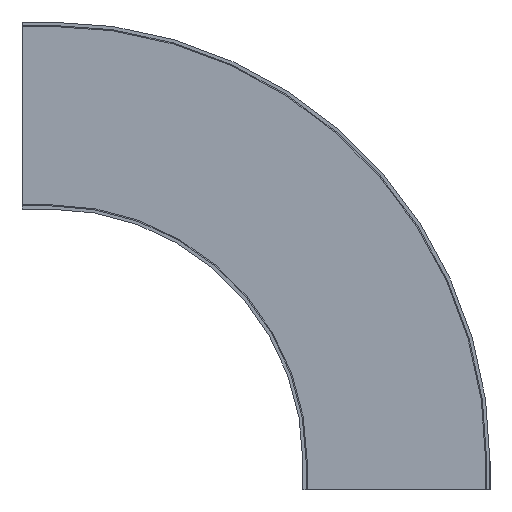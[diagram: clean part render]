
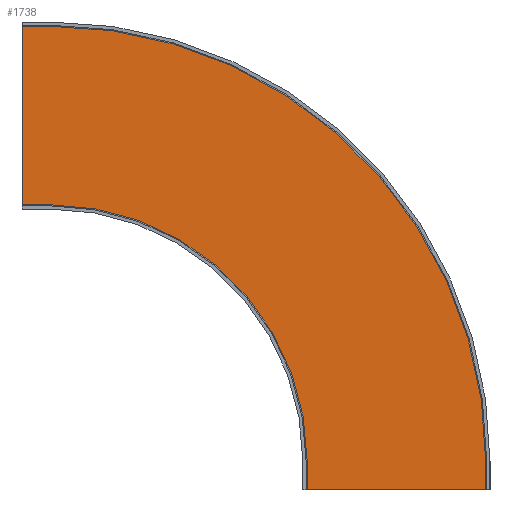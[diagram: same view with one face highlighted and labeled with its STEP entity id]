
A CAD part, front view. The second image highlights one B-rep face of the part: STEP entity #1738.
In plain terms, the highlighted planar face has unit normal (0, -1, 0).
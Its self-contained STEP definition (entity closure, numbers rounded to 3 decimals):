
#21 = DIRECTION ( 'NONE',  ( -1., 0., 0. ) ) ;
#25 = LINE ( 'NONE', #2360, #2268 ) ;
#75 = CARTESIAN_POINT ( 'NONE',  ( 474.9, -68.25, -52.5 ) ) ;
#120 = AXIS2_PLACEMENT_3D ( 'NONE', #1045, #1857, #1052 ) ;
#137 = EDGE_CURVE ( 'NONE', #424, #2401, #1360, .T. ) ;
#191 = CARTESIAN_POINT ( 'NONE',  ( -52.5, -68.25, 474.9 ) ) ;
#202 = FACE_OUTER_BOUND ( 'NONE', #1698, .T. ) ;
#267 = LINE ( 'NONE', #1863, #468 ) ;
#275 = LINE ( 'NONE', #781, #1667 ) ;
#286 = VERTEX_POINT ( 'NONE', #2055 ) ;
#310 = ORIENTED_EDGE ( 'NONE', *, *, #137, .T. ) ;
#385 = CARTESIAN_POINT ( 'NONE',  ( 474.9, -68.25, 0. ) ) ;
#424 = VERTEX_POINT ( 'NONE', #1928 ) ;
#432 = CARTESIAN_POINT ( 'NONE',  ( 805.1, -68.25, 0. ) ) ;
#433 = EDGE_CURVE ( 'NONE', #1125, #2167, #275, .T. ) ;
#453 = ORIENTED_EDGE ( 'NONE', *, *, #1427, .F. ) ;
#468 = VECTOR ( 'NONE', #1495, 1000. ) ;
#553 = DIRECTION ( 'NONE',  ( 1., 0., 0. ) ) ;
#657 = DIRECTION ( 'NONE',  ( 0., 1., 0. ) ) ;
#744 = VECTOR ( 'NONE', #1576, 1000. ) ;
#765 = AXIS2_PLACEMENT_3D ( 'NONE', #2127, #1381, #21 ) ;
#771 = LINE ( 'NONE', #191, #2415 ) ;
#781 = CARTESIAN_POINT ( 'NONE',  ( -52.5, -68.25, 805.1 ) ) ;
#797 = CARTESIAN_POINT ( 'NONE',  ( -52.5, -68.25, 805.1 ) ) ;
#826 = DIRECTION ( 'NONE',  ( 0., 0., 1. ) ) ;
#838 = CARTESIAN_POINT ( 'NONE',  ( 0., -68.25, 474.9 ) ) ;
#897 = ORIENTED_EDGE ( 'NONE', *, *, #2225, .T. ) ;
#940 = DIRECTION ( 'NONE',  ( 1., 0., 0. ) ) ;
#944 = ORIENTED_EDGE ( 'NONE', *, *, #2316, .F. ) ;
#990 = VERTEX_POINT ( 'NONE', #385 ) ;
#992 = CARTESIAN_POINT ( 'NONE',  ( 474.9, -68.25, -52.5 ) ) ;
#1045 = CARTESIAN_POINT ( 'NONE',  ( 0., -68.25, 0. ) ) ;
#1052 = DIRECTION ( 'NONE',  ( -1., 0., 0. ) ) ;
#1053 = DIRECTION ( 'NONE',  ( 0., 0., 1. ) ) ;
#1073 = CARTESIAN_POINT ( 'NONE',  ( 805.1, -68.25, -52.5 ) ) ;
#1078 = VECTOR ( 'NONE', #1053, 1000. ) ;
#1105 = VERTEX_POINT ( 'NONE', #2145 ) ;
#1125 = VERTEX_POINT ( 'NONE', #797 ) ;
#1221 = CIRCLE ( 'NONE', #120, 805.1 ) ;
#1282 = EDGE_CURVE ( 'NONE', #2167, #2401, #1221, .T. ) ;
#1328 = ORIENTED_EDGE ( 'NONE', *, *, #1282, .F. ) ;
#1360 = LINE ( 'NONE', #1073, #1078 ) ;
#1381 = DIRECTION ( 'NONE',  ( 0., 1., 0. ) ) ;
#1392 = PLANE ( 'NONE',  #1498 ) ;
#1427 = EDGE_CURVE ( 'NONE', #424, #2437, #267, .T. ) ;
#1444 = CIRCLE ( 'NONE', #765, 474.9 ) ;
#1495 = DIRECTION ( 'NONE',  ( -1., 0., 0. ) ) ;
#1498 = AXIS2_PLACEMENT_3D ( 'NONE', #838, #657, #1993 ) ;
#1576 = DIRECTION ( 'NONE',  ( 0., 0., 1. ) ) ;
#1606 = EDGE_CURVE ( 'NONE', #286, #990, #1444, .T. ) ;
#1667 = VECTOR ( 'NONE', #553, 1000. ) ;
#1698 = EDGE_LOOP ( 'NONE', ( #2304, #944, #453, #310, #1328, #1788, #2153, #897 ) ) ;
#1738 = ADVANCED_FACE ( 'NONE', ( #202 ), #1392, .F. ) ;
#1788 = ORIENTED_EDGE ( 'NONE', *, *, #433, .F. ) ;
#1813 = EDGE_CURVE ( 'NONE', #1105, #1125, #25, .T. ) ;
#1857 = DIRECTION ( 'NONE',  ( 0., 1., 0. ) ) ;
#1863 = CARTESIAN_POINT ( 'NONE',  ( 0., -68.25, -52.5 ) ) ;
#1928 = CARTESIAN_POINT ( 'NONE',  ( 805.1, -68.25, -52.5 ) ) ;
#1993 = DIRECTION ( 'NONE',  ( -1., 0., 0. ) ) ;
#2055 = CARTESIAN_POINT ( 'NONE',  ( 0., -68.25, 474.9 ) ) ;
#2100 = LINE ( 'NONE', #992, #744 ) ;
#2127 = CARTESIAN_POINT ( 'NONE',  ( 0., -68.25, 0. ) ) ;
#2145 = CARTESIAN_POINT ( 'NONE',  ( -52.5, -68.25, 474.9 ) ) ;
#2153 = ORIENTED_EDGE ( 'NONE', *, *, #1813, .F. ) ;
#2167 = VERTEX_POINT ( 'NONE', #2292 ) ;
#2225 = EDGE_CURVE ( 'NONE', #1105, #286, #771, .T. ) ;
#2268 = VECTOR ( 'NONE', #826, 1000. ) ;
#2292 = CARTESIAN_POINT ( 'NONE',  ( 0., -68.25, 805.1 ) ) ;
#2304 = ORIENTED_EDGE ( 'NONE', *, *, #1606, .T. ) ;
#2316 = EDGE_CURVE ( 'NONE', #2437, #990, #2100, .T. ) ;
#2360 = CARTESIAN_POINT ( 'NONE',  ( -52.5, -68.25, 0. ) ) ;
#2401 = VERTEX_POINT ( 'NONE', #432 ) ;
#2415 = VECTOR ( 'NONE', #940, 1000. ) ;
#2437 = VERTEX_POINT ( 'NONE', #75 ) ;
